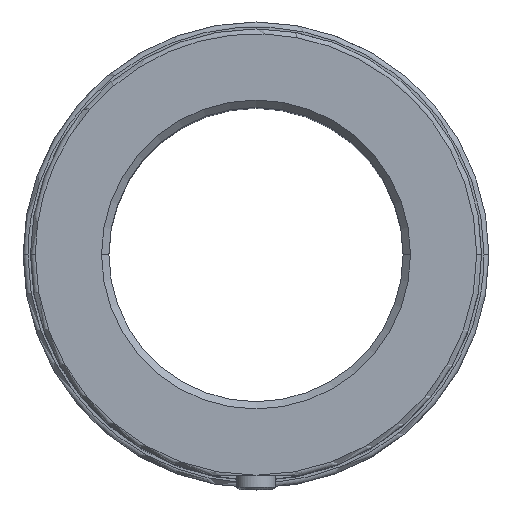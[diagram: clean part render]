
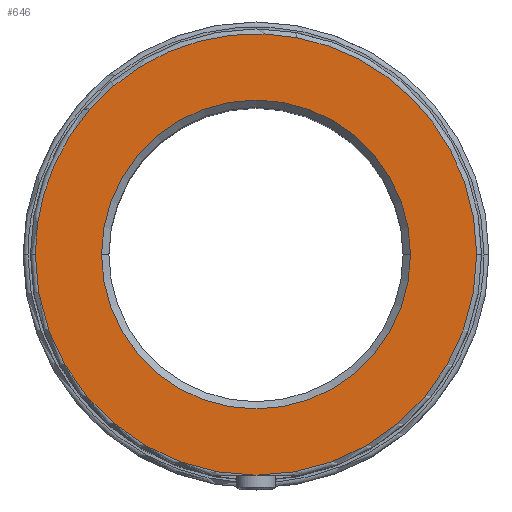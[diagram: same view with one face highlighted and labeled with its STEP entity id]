
A CAD part, top view. The second image highlights one B-rep face of the part: STEP entity #646.
In plain terms, the highlighted planar face has unit normal (0, 0, 1).
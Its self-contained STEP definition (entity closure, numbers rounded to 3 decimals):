
#291=CARTESIAN_POINT('Vertex',(0.,-45.,56.)) ;
#410=CARTESIAN_POINT('Vertex',(-31.5,0.,56.)) ;
#413=CARTESIAN_POINT('Axis2P3D Location',(0.,0.,56.)) ;
#417=CARTESIAN_POINT('Vertex',(31.5,0.,56.)) ;
#505=CARTESIAN_POINT('Vertex',(45.,0.,56.)) ;
#508=CARTESIAN_POINT('Axis2P3D Location',(0.,0.,56.)) ;
#529=CARTESIAN_POINT('Vertex',(-45.,0.,56.)) ;
#532=CARTESIAN_POINT('Axis2P3D Location',(0.,0.,56.)) ;
#594=CARTESIAN_POINT('Axis2P3D Location',(0.,0.,56.)) ;
#606=CARTESIAN_POINT('Axis2P3D Location',(-31.5,0.,56.)) ;
#612=CARTESIAN_POINT('Control Point',(45.,0.,56.)) ;
#613=CARTESIAN_POINT('Control Point',(45.,4.272,56.)) ;
#614=CARTESIAN_POINT('Control Point',(44.493,8.544,56.)) ;
#615=CARTESIAN_POINT('Control Point',(43.479,12.737,56.)) ;
#616=CARTESIAN_POINT('Control Point',(40.475,20.8,56.)) ;
#617=CARTESIAN_POINT('Control Point',(35.668,27.936,56.)) ;
#618=CARTESIAN_POINT('Control Point',(32.85,31.201,56.)) ;
#619=CARTESIAN_POINT('Control Point',(26.493,37.,56.)) ;
#620=CARTESIAN_POINT('Control Point',(18.956,41.15,56.)) ;
#621=CARTESIAN_POINT('Control Point',(14.957,42.766,56.)) ;
#622=CARTESIAN_POINT('Control Point',(6.653,45.018,56.)) ;
#623=CARTESIAN_POINT('Control Point',(-1.948,45.264,56.)) ;
#624=CARTESIAN_POINT('Control Point',(-6.243,44.874,56.)) ;
#625=CARTESIAN_POINT('Control Point',(-14.659,43.081,56.)) ;
#626=CARTESIAN_POINT('Control Point',(-22.421,39.369,56.)) ;
#627=CARTESIAN_POINT('Control Point',(-26.063,37.059,56.)) ;
#628=CARTESIAN_POINT('Control Point',(-32.729,31.618,56.)) ;
#629=CARTESIAN_POINT('Control Point',(-37.936,24.768,56.)) ;
#630=CARTESIAN_POINT('Control Point',(-40.12,21.048,56.)) ;
#631=CARTESIAN_POINT('Control Point',(-42.905,14.668,56.)) ;
#632=CARTESIAN_POINT('Control Point',(-44.419,7.904,56.)) ;
#633=CARTESIAN_POINT('Control Point',(-44.806,5.282,56.)) ;
#634=CARTESIAN_POINT('Control Point',(-45.,2.641,56.)) ;
#635=CARTESIAN_POINT('Control Point',(-45.,0.,56.)) ;
#414=DIRECTION('Axis2P3D Direction',(0.,-0.,1.)) ;
#509=DIRECTION('Axis2P3D Direction',(0.,-0.,1.)) ;
#533=DIRECTION('Axis2P3D Direction',(0.,-0.,1.)) ;
#595=DIRECTION('Axis2P3D Direction',(0.,-0.,1.)) ;
#607=DIRECTION('Axis2P3D Direction',(0.,0.,-1.)) ;
#608=DIRECTION('Axis2P3D XDirection',(-1.,0.,-0.)) ;
#415=AXIS2_PLACEMENT_3D('Circle Axis2P3D',#413,#414,$) ;
#510=AXIS2_PLACEMENT_3D('Circle Axis2P3D',#508,#509,$) ;
#534=AXIS2_PLACEMENT_3D('Circle Axis2P3D',#532,#533,$) ;
#596=AXIS2_PLACEMENT_3D('Circle Axis2P3D',#594,#595,$) ;
#609=AXIS2_PLACEMENT_3D('Plane Axis2P3D',#606,#607,#608) ;
#638=ORIENTED_EDGE('',*,*,#512,.T.) ;
#639=ORIENTED_EDGE('',*,*,#636,.T.) ;
#640=ORIENTED_EDGE('',*,*,#536,.T.) ;
#643=ORIENTED_EDGE('',*,*,#598,.F.) ;
#644=ORIENTED_EDGE('',*,*,#419,.F.) ;
#645=FACE_BOUND('',#642,.T.) ;
#646=ADVANCED_FACE('744-60 sol1',(#641,#645),#610,.F.) ;
#611=B_SPLINE_CURVE_WITH_KNOTS('',5,(#612,#613,#614,#615,#616,#617,#618,#619,#620,#621,#622,#623,#624,#625,#626,#627,#628,#629,#630,#631,#632,#633,#634,#635),.UNSPECIFIED.,.F.,.U.,(6,3,3,3,3,3,3,6),(0.,30.209,60.418,90.627,120.836,151.045,181.254,199.928),.UNSPECIFIED.) ;
#416=CIRCLE('generated circle',#415,31.5) ;
#511=CIRCLE('generated circle',#510,45.) ;
#535=CIRCLE('generated circle',#534,45.) ;
#597=CIRCLE('generated circle',#596,31.5) ;
#419=EDGE_CURVE('',#411,#418,#416,.T.) ;
#512=EDGE_CURVE('',#292,#506,#511,.T.) ;
#536=EDGE_CURVE('',#530,#292,#535,.T.) ;
#598=EDGE_CURVE('',#418,#411,#597,.T.) ;
#636=EDGE_CURVE('',#506,#530,#611,.T.) ;
#637=EDGE_LOOP('',(#638,#639,#640)) ;
#642=EDGE_LOOP('',(#643,#644)) ;
#641=FACE_OUTER_BOUND('',#637,.T.) ;
#610=PLANE('Plane',#609) ;
#292=VERTEX_POINT('',#291) ;
#411=VERTEX_POINT('',#410) ;
#418=VERTEX_POINT('',#417) ;
#506=VERTEX_POINT('',#505) ;
#530=VERTEX_POINT('',#529) ;
